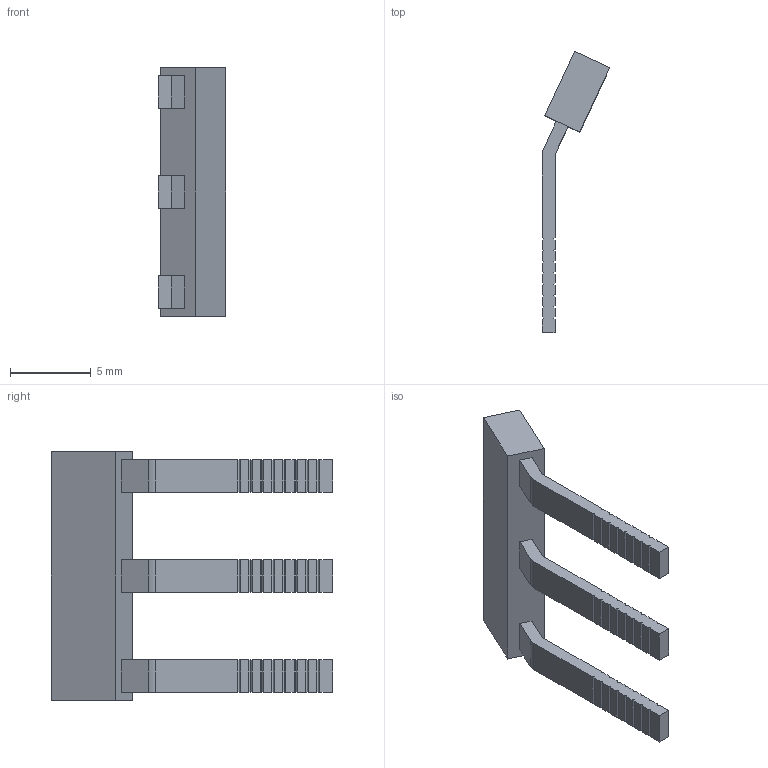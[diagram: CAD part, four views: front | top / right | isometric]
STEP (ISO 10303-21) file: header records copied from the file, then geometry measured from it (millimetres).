
FILE_DESCRIPTION(('Open CASCADE Model'),'2;1');
FILE_NAME('Open CASCADE Shape Model','2023-12-20T15:24:09',('Author'),( 'Open CASCADE'),'Open CASCADE STEP processor 6.5','Open CASCADE 6.5' ,'Unknown');
FILE_SCHEMA(('AUTOMOTIVE_DESIGN { 1 0 10303 214 1 1 1 1 }'));
Length unit declared in the file: millimetre
Products named in the file (175): CADSOFTTOOLS 7; CADSOFTTOOLS 7.1; CADSOFTTOOLS 7.2; CADSOFTTOOLS 7.3; CADSOFTTOOLS 7.4; CADSOFTTOOLS 7.5; CADSOFTTOOLS 7.6; CADSOFTTOOLS 7.7; CADSOFTTOOLS 7.8; CADSOFTTOOLS 7.9; CADSOFTTOOLS 7.10; CADSOFTTOOLS 7.11; CADSOFTTOOLS 7.12; CADSOFTTOOLS 7.13; CADSOFTTOOLS 7.14; CADSOFTTOOLS 7.15; CADSOFTTOOLS 7.16; CADSOFTTOOLS 7.17; CADSOFTTOOLS 7.18; CADSOFTTOOLS 7.19; CADSOFTTOOLS 7.20; CADSOFTTOOLS 7.21; CADSOFTTOOLS 7.22; CADSOFTTOOLS 7.23; CADSOFTTOOLS 7.24; CADSOFTTOOLS 7.25; CADSOFTTOOLS 7.26; CADSOFTTOOLS 7.27; CADSOFTTOOLS 7.28; CADSOFTTOOLS 7.29; CADSOFTTOOLS 7.30; CADSOFTTOOLS 7.31; CADSOFTTOOLS 7.32; CADSOFTTOOLS 7.33; CADSOFTTOOLS 7.34; CADSOFTTOOLS 7.35; CADSOFTTOOLS 7.36; CADSOFTTOOLS 7.37; CADSOFTTOOLS 7.38; CADSOFTTOOLS 7.39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
Assembly tree (174 placements, depth 2):
  CADSOFTTOOLS 7
    CADSOFTTOOLS 7.1
    CADSOFTTOOLS 7.2
    CADSOFTTOOLS 7.3
    CADSOFTTOOLS 7.4
    CADSOFTTOOLS 7.5
    CADSOFTTOOLS 7.6
    CADSOFTTOOLS 7.7
    CADSOFTTOOLS 7.8
    CADSOFTTOOLS 7.9
    CADSOFTTOOLS 7.10
    CADSOFTTOOLS 7.11
    CADSOFTTOOLS 7.12
    CADSOFTTOOLS 7.13
    CADSOFTTOOLS 7.14
    CADSOFTTOOLS 7.15
    CADSOFTTOOLS 7.16
    CADSOFTTOOLS 7.17
    CADSOFTTOOLS 7.18
    CADSOFTTOOLS 7.19
    CADSOFTTOOLS 7.20
    CADSOFTTOOLS 7.21
    CADSOFTTOOLS 7.22
    CADSOFTTOOLS 7.23
    CADSOFTTOOLS 7.24
    CADSOFTTOOLS 7.25
    CADSOFTTOOLS 7.26
    CADSOFTTOOLS 7.27
    CADSOFTTOOLS 7.28
    CADSOFTTOOLS 7.29
    CADSOFTTOOLS 7.30
    CADSOFTTOOLS 7.31
    CADSOFTTOOLS 7.32
    CADSOFTTOOLS 7.33
    CADSOFTTOOLS 7.34
    CADSOFTTOOLS 7.35
    CADSOFTTOOLS 7.36
    CADSOFTTOOLS 7.37
    CADSOFTTOOLS 7.38
    CADSOFTTOOLS 7.39
    CADSOFTTOOLS 7.40
    CADSOFTTOOLS 7.41
    CADSOFTTOOLS 7.42
    CADSOFTTOOLS 7.43
    CADSOFTTOOLS 7.44
    CADSOFTTOOLS 7.45
    CADSOFTTOOLS 7.46
    CADSOFTTOOLS 7.47
    CADSOFTTOOLS 7.48
    CADSOFTTOOLS 7.49
    CADSOFTTOOLS 7.50
    CADSOFTTOOLS 7.51
    CADSOFTTOOLS 7.52
    CADSOFTTOOLS 7.53
    CADSOFTTOOLS 7.54
    CADSOFTTOOLS 7.55
    CADSOFTTOOLS 7.56
    CADSOFTTOOLS 7.57
    CADSOFTTOOLS 7.58
    CADSOFTTOOLS 7.59
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Bounding box: 4.19 x 17.43 x 15.4 mm (x, y, z)
Surface area: 457.9 mm2 (no closed solid volume)
Topology: 0 solids, 174 shells, 174 faces, 1014 edges, 1014 vertices
Faces by surface type: plane 171, cylinder 3
Entity records: 20104 total; most frequent: CARTESIAN_POINT 3403, DIRECTION 2726, LINE 1998, VECTOR 1998, ORIENTED_EDGE 1014, EDGE_CURVE 1014, VERTEX_POINT 1014, SURFACE_CURVE 1014
